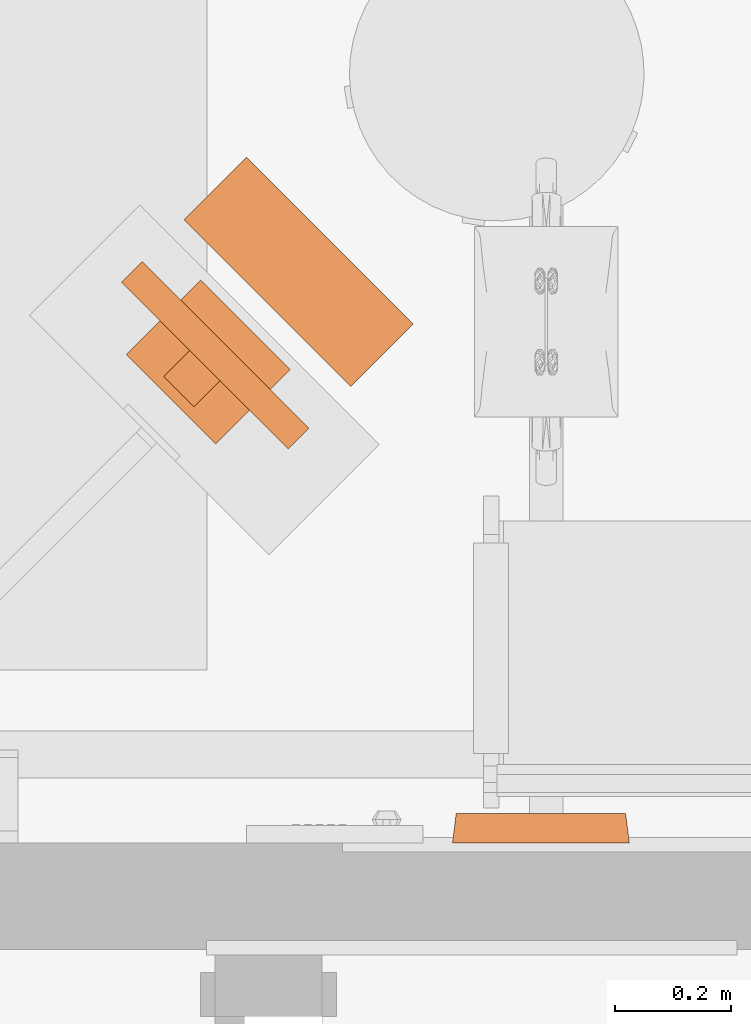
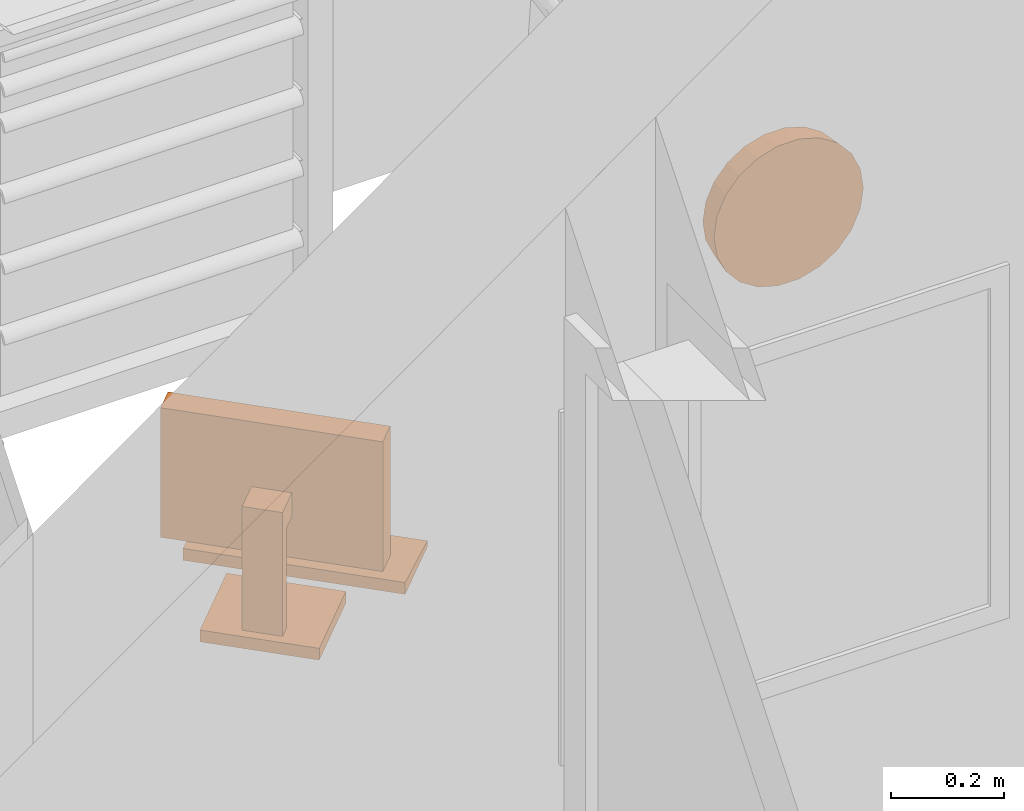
# One storey, part 110 of 142: 2 proxies.
"""IFC2X3 building model written with IfcOpenShell, lengths in feet."""

from ifc_helpers import new_model, entity, si_unit, converted_unit, derived_unit, direction, frame, origin, place, context, subcontext, project, spatial, faceted_brep, source, transform, mapped, type_object, type_shapes, element, save


model = new_model("IFC2X3")

# Units and contexts
model_context = context("Model", 3, precision=0.0001, world=origin(), true_north=direction((6.12303176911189e-17, 1.0)))
body_context = subcontext(model_context, "Body", "Model", "MODEL_VIEW")
ifc_project = project(units=[converted_unit("LENGTHUNIT", "FOOT", entity("IfcRatioMeasure", 0.3048), si_unit("LENGTHUNIT", "METRE"), dimensions=[1, 0, 0, 0, 0, 0, 0]), converted_unit("AREAUNIT", "SQUARE FOOT", entity("IfcRatioMeasure", 0.09290304), si_unit("AREAUNIT", "SQUARE_METRE"), dimensions=[2, 0, 0, 0, 0, 0, 0]), converted_unit("VOLUMEUNIT", "CUBIC FOOT", entity("IfcRatioMeasure", 0.028316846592), si_unit("VOLUMEUNIT", "CUBIC_METRE"), dimensions=[3, 0, 0, 0, 0, 0, 0]), converted_unit("PLANEANGLEUNIT", "DEGREE", entity("IfcRatioMeasure", 0.0174532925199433), si_unit("PLANEANGLEUNIT", "RADIAN"), dimensions=[0, 0, 0, 0, 0, 0, 0]), si_unit("MASSUNIT", "GRAM", prefix="KILO"), derived_unit("MASSDENSITYUNIT", [(si_unit("MASSUNIT", "GRAM", prefix="KILO"), 1), (si_unit("LENGTHUNIT", "METRE"), -3)]), si_unit("TIMEUNIT", "SECOND"), si_unit("FREQUENCYUNIT", "HERTZ"), si_unit("THERMODYNAMICTEMPERATUREUNIT", "DEGREE_CELSIUS"), derived_unit("THERMALTRANSMITTANCEUNIT", [(si_unit("MASSUNIT", "GRAM", prefix="KILO"), 1), (si_unit("THERMODYNAMICTEMPERATUREUNIT", "KELVIN"), -1), (si_unit("TIMEUNIT", "SECOND"), -3)]), derived_unit("VOLUMETRICFLOWRATEUNIT", [(si_unit("LENGTHUNIT", "METRE"), 3), (si_unit("TIMEUNIT", "SECOND"), -1)]), si_unit("ELECTRICCURRENTUNIT", "AMPERE"), si_unit("ELECTRICVOLTAGEUNIT", "VOLT"), si_unit("POWERUNIT", "WATT"), si_unit("FORCEUNIT", "NEWTON"), si_unit("ILLUMINANCEUNIT", "LUX"), si_unit("LUMINOUSFLUXUNIT", "LUMEN"), si_unit("LUMINOUSINTENSITYUNIT", "CANDELA"), derived_unit("USERDEFINED", [(si_unit("MASSUNIT", "GRAM", prefix="KILO"), -1), (si_unit("LENGTHUNIT", "METRE"), -2), (si_unit("TIMEUNIT", "SECOND"), 3), (si_unit("LUMINOUSFLUXUNIT", "LUMEN"), 1)]), derived_unit("LINEARVELOCITYUNIT", [(si_unit("LENGTHUNIT", "METRE"), 1), (si_unit("TIMEUNIT", "SECOND"), -1)]), si_unit("PRESSUREUNIT", "PASCAL"), derived_unit("USERDEFINED", [(si_unit("LENGTHUNIT", "METRE"), -2), (si_unit("MASSUNIT", "GRAM", prefix="KILO"), 1), (si_unit("TIMEUNIT", "SECOND"), -2)])], contexts=[model_context])

# Site, building, storey, space
site_placement = place(None, origin())
site = spatial("IfcSite", under=ifc_project, at=site_placement, Name="Default", CompositionType="ELEMENT")
building_placement = place(site_placement, origin())
building = spatial("IfcBuilding", under=site, at=building_placement, Name="OUTPATIENT / PACT CLINIC (Ch. 265)", CompositionType="ELEMENT")
storey_placement = place(building_placement, origin())
storey = spatial("IfcBuildingStorey", under=building, at=storey_placement, Name="LEVEL 1", CompositionType="ELEMENT", Elevation=0.0)
space_placement = place(storey_placement, origin())
space = spatial("IfcSpace", under=storey, at=space_placement, Name="EXPA1", CompositionType="ELEMENT", InteriorOrExteriorSpace="INTERNAL")

# Proxies
building_element_proxy_type_1 = type_object("IfcBuildingElementProxyType", Name="M1801 - Computer with Flat Panel Monitor", PredefinedType="NOTDEFINED")
shared_shape_1 = source(origin(), body_context, "Body", "Brep", [
    faceted_brep([(0.666666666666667, -0.5625, 0.0), (0.666666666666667, -0.0624999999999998, 0.0), (0.666666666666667, -0.0624999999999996, 0.0833333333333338), (0.666666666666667, -0.5625, 0.0416666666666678), (-0.666666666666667, -0.5625, 0.0), (-0.666666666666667, -0.5625, 0.0416666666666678), (-0.666666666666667, -0.0624999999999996, 0.0833333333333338), (-0.666666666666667, -0.0624999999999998, 0.0)], [[[0, 1, 2, 3]], [[4, 5, 6, 7]], [[1, 0, 4, 7]], [[2, 1, 7, 6]], [[3, 2, 6, 5]], [[0, 3, 5, 4]]]),
    faceted_brep([(0.666666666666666, 0.437223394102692, 1.41666666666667), (-0.666666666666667, 0.437223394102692, 1.41666666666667), (-0.666666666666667, 0.271109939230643, 1.41666666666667), (0.666666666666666, 0.271109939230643, 1.41666666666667), (0.666666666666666, 0.437223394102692, 0.500000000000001), (0.666666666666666, 0.271109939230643, 0.500000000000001), (-0.666666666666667, 0.271109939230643, 0.500000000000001), (-0.666666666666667, 0.437223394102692, 0.500000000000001), (-0.625, 0.271109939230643, 1.375), (0.625, 0.271109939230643, 1.375), (0.625, 0.271109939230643, 0.541666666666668), (-0.625, 0.271109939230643, 0.541666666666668), (0.625, 0.286812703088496, 1.375), (-0.625, 0.286812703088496, 1.375), (0.625, 0.286812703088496, 0.541666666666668), (-0.625, 0.286812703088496, 0.541666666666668)], [[[0, 1, 2, 3]], [[4, 5, 6, 7]], [[1, 0, 4, 7]], [[2, 1, 7, 6]], [[3, 2, 6, 5], [8, 9, 10, 11]], [[0, 3, 5, 4]], [[12, 9, 8, 13]], [[14, 15, 11, 10]], [[12, 13, 15, 14]], [[13, 8, 11, 15]], [[9, 12, 14, 10]]]),
    faceted_brep([(0.358011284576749, 0.111770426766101, 0.0833333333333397), (0.358011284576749, 0.111770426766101, 0.0), (0.358011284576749, 0.708333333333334, 0.0), (0.358011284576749, 0.708333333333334, 0.0833333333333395), (-0.358011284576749, 0.708333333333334, 0.0833333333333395), (-0.358011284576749, 0.708333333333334, 0.0), (-0.358011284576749, 0.111770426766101, 0.0), (-0.358011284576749, 0.111770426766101, 0.0833333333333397), (0.12128795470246, 0.645556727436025, 0.104166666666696), (0.12128795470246, 0.645556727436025, 0.0833333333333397), (-0.12128795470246, 0.645556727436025, 0.0833333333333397), (-0.12128795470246, 0.645556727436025, 0.104166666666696), (0.12128795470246, 0.645556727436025, 0.958333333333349), (-0.12128795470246, 0.645556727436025, 0.958333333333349), (0.12128795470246, 0.437223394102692, 0.958333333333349), (-0.12128795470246, 0.437223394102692, 0.958333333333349), (0.12128795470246, 0.437223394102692, 0.791666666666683), (-0.12128795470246, 0.437223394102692, 0.791666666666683), (0.12128795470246, 0.562223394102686, 0.791666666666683), (-0.12128795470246, 0.562223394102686, 0.791666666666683), (0.12128795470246, 0.562223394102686, 0.0833333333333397), (-0.12128795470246, 0.562223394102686, 0.0833333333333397)], [[[0, 1, 2, 3]], [[4, 5, 6, 7]], [[8, 9, 10, 11]], [[12, 8, 11, 13]], [[14, 12, 13, 15]], [[16, 14, 15, 17]], [[18, 16, 17, 19]], [[20, 18, 19, 21]], [[0, 3, 4, 7], [9, 20, 21, 10]], [[1, 0, 7, 6]], [[2, 1, 6, 5]], [[3, 2, 5, 4]], [[20, 9, 8, 12, 14, 16, 18]], [[10, 21, 19, 17, 15, 13, 11]]]),
])
type_shapes(building_element_proxy_type_1, [shared_shape_1])
proxy_1_placement = place(space_placement, frame((439.803720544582, -900.619691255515, 2.9791666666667), z_axis=(0.0, 0.0, 1.0), x_axis=(-0.707106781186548, 0.707106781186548, 0.0)))
element("IfcBuildingElementProxy", 1, at=proxy_1_placement, inside=space, type_object=building_element_proxy_type_1, Name="M1801 - Computer with Flat Panel Monitor1:M1801 - Computer with Flat Panel Monitor", ObjectType="M1801 - Computer with Flat Panel Monitor", context=body_context, shape_type="MappedRepresentation", body=[
    mapped(shared_shape_1, transform((0.0, 0.0, 0.0), scale=1.0)),
])
building_element_proxy_type_2 = type_object("IfcBuildingElementProxyType", Name="F3200 - Clock, Battery, 12in Dia", PredefinedType="NOTDEFINED")
shared_shape_2 = source(origin(), body_context, "Body", "Brep", [
    faceted_brep([(0.0527623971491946, -0.166666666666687, -0.0087350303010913), (0.143371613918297, -0.166666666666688, 0.0607918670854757), (0.212898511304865, -0.16666666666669, 0.151401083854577), (0.256604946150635, -0.166666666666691, 0.256917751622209), (0.271512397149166, -0.166666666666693, 0.370151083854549), (0.256604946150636, -0.166666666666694, 0.483384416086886), (0.212898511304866, -0.166666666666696, 0.588901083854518), (0.143371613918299, -0.166666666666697, 0.67951030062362), (0.052762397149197, -0.166666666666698, 0.749037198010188), (-0.0527542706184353, -0.166666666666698, 0.792743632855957), (-0.165987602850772, -0.166666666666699, 0.807651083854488), (-0.279220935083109, -0.166666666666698, 0.792743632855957), (-0.384737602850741, -0.166666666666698, 0.749037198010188), (-0.475346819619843, -0.166666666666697, 0.679510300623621), (-0.544873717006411, -0.166666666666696, 0.588901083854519), (-0.588580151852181, -0.166666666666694, 0.483384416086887), (-0.603487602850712, -0.166666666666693, 0.37015108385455), (-0.588580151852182, -0.166666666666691, 0.256917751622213), (-0.544873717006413, -0.16666666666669, 0.151401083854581), (-0.475346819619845, -0.166666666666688, 0.0607918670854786), (-0.384737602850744, -0.166666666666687, -0.0087350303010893), (-0.279220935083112, -0.166666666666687, -0.052441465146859), (-0.165987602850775, -0.166666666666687, -0.0673489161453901), (-0.0527542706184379, -0.166666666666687, -0.0524414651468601), (0.256604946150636, -0.145833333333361, 0.483384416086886), (0.271512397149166, -0.145833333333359, 0.370151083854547), (0.256604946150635, -0.145833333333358, 0.256917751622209), (0.212898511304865, -0.145833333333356, 0.151401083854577), (0.143371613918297, -0.145833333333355, 0.0607918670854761), (0.0527623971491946, -0.145833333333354, -0.00873503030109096), (-0.0527542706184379, -0.145833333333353, -0.0524414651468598), (-0.165987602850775, -0.145833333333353, -0.0673489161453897), (-0.279220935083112, -0.145833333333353, -0.0524414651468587), (-0.384737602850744, -0.145833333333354, -0.00873503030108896), (-0.475346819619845, -0.145833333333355, 0.060791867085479), (-0.544873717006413, -0.145833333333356, 0.151401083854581), (-0.588580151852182, -0.145833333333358, 0.256917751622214), (-0.603487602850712, -0.145833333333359, 0.37015108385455), (-0.588580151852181, -0.145833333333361, 0.483384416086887), (-0.544873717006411, -0.145833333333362, 0.588901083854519), (-0.475346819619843, -0.145833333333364, 0.679510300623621), (-0.384737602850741, -0.145833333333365, 0.749037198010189), (-0.279220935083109, -0.145833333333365, 0.792743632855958), (-0.165987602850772, -0.145833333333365, 0.807651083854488), (-0.0527542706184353, -0.145833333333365, 0.792743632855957), (0.052762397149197, -0.145833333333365, 0.749037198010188), (0.143371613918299, -0.145833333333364, 0.67951030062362), (0.212898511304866, -0.145833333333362, 0.588901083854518)], [[[0, 1, 2, 3, 4, 5, 6, 7, 8, 9, 10, 11, 12, 13, 14, 15, 16, 17, 18, 19, 20, 21, 22, 23]], [[24, 25, 26, 27, 28, 29, 30, 31, 32, 33, 34, 35, 36, 37, 38, 39, 40, 41, 42, 43, 44, 45, 46, 47]], [[36, 17, 16, 37]], [[35, 18, 17, 36]], [[20, 19, 34, 33]], [[35, 34, 19, 18]], [[21, 20, 33, 32]], [[22, 21, 32, 31]], [[30, 23, 22, 31]], [[29, 0, 23, 30]], [[2, 1, 28, 27]], [[29, 28, 1, 0]], [[3, 2, 27, 26]], [[4, 3, 26, 25]], [[24, 5, 4, 25]], [[47, 6, 5, 24]], [[8, 7, 46, 45]], [[47, 46, 7, 6]], [[9, 8, 45, 44]], [[10, 9, 44, 43]], [[11, 10, 43, 42]], [[12, 11, 42, 41]], [[14, 39, 38, 15]], [[15, 38, 37, 16]], [[12, 41, 40, 13]], [[40, 39, 14, 13]]]),
    faceted_brep([(-0.493417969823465, 0.0, -0.00772370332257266), (-0.586614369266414, 0.0, 0.0998306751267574), (-0.165987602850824, 0.0, 0.370151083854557), (-0.373695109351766, 0.0, -0.0846649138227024), (-0.645734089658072, 0.0, 0.229284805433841), (-0.665987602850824, 0.0, 0.370151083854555), (-0.645734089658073, 0.0, 0.51101736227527), (-0.586614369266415, 0.0, 0.640471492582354), (-0.493417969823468, 0.0, 0.748025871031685), (-0.373695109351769, 0.0, 0.824967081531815), (-0.237145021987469, 0.0, 0.865061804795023), (-0.0948301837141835, 0.0, 0.865061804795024), (0.0417199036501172, 0.0, 0.824967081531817), (0.161442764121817, 0.0, 0.748025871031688), (0.254639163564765, 0.0, 0.640471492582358), (0.313758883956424, 0.0, 0.511017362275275), (0.334012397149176, 0.0, 0.370151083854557), (0.313758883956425, 0.0, 0.229284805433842), (0.254639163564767, 0.0, 0.0998306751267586), (0.161442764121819, 0.0, -0.00772370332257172), (0.0417199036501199, 0.0, -0.0846649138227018), (-0.0948301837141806, 0.0, -0.124759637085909), (-0.237145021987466, 0.0, -0.124759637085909), (-0.165987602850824, -0.145833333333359, 0.370151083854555), (-0.534036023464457, -0.145833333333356, 0.133620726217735), (-0.452489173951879, -0.145833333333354, 0.0395106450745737), (-0.585765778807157, -0.145833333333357, 0.246893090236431), (-0.347731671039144, -0.145833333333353, -0.0278129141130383), (-0.228250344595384, -0.145833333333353, -0.0628957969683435), (-0.603487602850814, -0.145833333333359, 0.370151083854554), (-0.103724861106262, -0.145833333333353, -0.0628957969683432), (0.0157564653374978, -0.145833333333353, -0.0278129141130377), (0.120513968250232, -0.145833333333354, 0.0395106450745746), (0.20206081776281, -0.145833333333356, 0.133620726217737), (0.253790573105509, -0.145833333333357, 0.246893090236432), (0.271512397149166, -0.145833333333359, 0.370151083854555), (-0.585765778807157, -0.145833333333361, 0.493409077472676), (-0.534036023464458, -0.145833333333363, 0.606681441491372), (-0.452489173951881, -0.145833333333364, 0.700791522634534), (-0.347731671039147, -0.145833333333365, 0.768115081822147), (-0.228250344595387, -0.145833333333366, 0.803197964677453), (0.253790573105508, -0.145833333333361, 0.49340907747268), (0.202060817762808, -0.145833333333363, 0.606681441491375), (0.12051396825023, -0.145833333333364, 0.700791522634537), (0.0157564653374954, -0.145833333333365, 0.768115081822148), (-0.103724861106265, -0.145833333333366, 0.803197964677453), (0.253790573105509, -0.166666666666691, 0.246893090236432), (0.271512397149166, -0.166666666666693, 0.370151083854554), (0.20206081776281, -0.166666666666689, 0.133620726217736), (-0.103724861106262, -0.166666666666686, -0.0628957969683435), (0.0157564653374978, -0.166666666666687, -0.0278129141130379), (0.120513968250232, -0.166666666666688, 0.0395106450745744), (-0.228250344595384, -0.166666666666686, -0.0628957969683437), (-0.452489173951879, -0.166666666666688, 0.0395106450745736), (-0.347731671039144, -0.166666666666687, -0.0278129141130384), (-0.603487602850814, -0.166666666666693, 0.370151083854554), (-0.585765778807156, -0.166666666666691, 0.246893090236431), (-0.534036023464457, -0.166666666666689, 0.133620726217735), (-0.585765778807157, -0.166666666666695, 0.493409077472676), (-0.534036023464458, -0.166666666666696, 0.606681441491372), (-0.347731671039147, -0.166666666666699, 0.768115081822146), (-0.452489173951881, -0.166666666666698, 0.700791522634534), (-0.228250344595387, -0.166666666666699, 0.803197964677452), (-0.103724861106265, -0.166666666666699, 0.803197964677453), (0.0157564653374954, -0.166666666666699, 0.768115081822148), (0.12051396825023, -0.166666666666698, 0.700791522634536), (0.253790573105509, -0.166666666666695, 0.493409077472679), (0.202060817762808, -0.166666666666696, 0.606681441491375), (-0.62574465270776, -0.166666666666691, 0.235154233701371), (-0.64515426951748, -0.166666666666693, 0.370151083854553), (-0.569088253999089, -0.166666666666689, 0.111094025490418), (-0.479775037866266, -0.166666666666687, 0.00802107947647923), (-0.365040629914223, -0.166666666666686, -0.0657142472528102), (-0.234180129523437, -0.166666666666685, -0.104138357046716), (-0.0977950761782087, -0.166666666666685, -0.104138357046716), (0.0330654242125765, -0.166666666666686, -0.0657142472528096), (0.147799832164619, -0.166666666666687, 0.00802107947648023), (0.237113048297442, -0.166666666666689, 0.11109402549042), (0.293769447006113, -0.166666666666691, 0.235154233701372), (0.313179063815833, -0.166666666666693, 0.370151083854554), (0.293769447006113, -0.166666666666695, 0.50514793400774), (0.237113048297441, -0.166666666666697, 0.629208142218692), (0.147799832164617, -0.166666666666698, 0.732281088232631), (0.0330654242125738, -0.1666666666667, 0.80601641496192), (-0.0977950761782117, -0.1666666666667, 0.844440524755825), (-0.23418012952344, -0.1666666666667, 0.844440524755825), (-0.365040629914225, -0.1666666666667, 0.806016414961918), (-0.479775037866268, -0.166666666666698, 0.732281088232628), (-0.569088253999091, -0.166666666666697, 0.629208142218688), (-0.625744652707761, -0.166666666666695, 0.505147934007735)], [[[0, 1, 2]], [[0, 2, 3]], [[4, 2, 1]], [[2, 4, 5]], [[5, 6, 2]], [[2, 6, 7]], [[2, 7, 8]], [[2, 8, 9]], [[9, 10, 2]], [[11, 2, 10]], [[2, 11, 12]], [[2, 12, 13]], [[14, 2, 13]], [[2, 14, 15]], [[15, 16, 2]], [[2, 16, 17]], [[2, 17, 18]], [[18, 19, 2]], [[19, 20, 2]], [[21, 2, 20]], [[2, 21, 22]], [[22, 3, 2]], [[23, 24, 25]], [[24, 23, 26]], [[27, 23, 25]], [[23, 27, 28]], [[29, 26, 23]], [[28, 30, 23]], [[31, 23, 30]], [[23, 31, 32]], [[23, 32, 33]], [[33, 34, 23]], [[34, 35, 23]], [[23, 36, 29]], [[37, 36, 23]], [[38, 37, 23]], [[39, 38, 23]], [[23, 40, 39]], [[23, 35, 41]], [[41, 42, 23]], [[43, 23, 42]], [[43, 44, 23]], [[44, 45, 23]], [[40, 23, 45]], [[46, 47, 35, 34]], [[46, 34, 33, 48]], [[31, 30, 49, 50]], [[32, 31, 50, 51]], [[51, 48, 33, 32]], [[30, 28, 52, 49]], [[27, 25, 53, 54]], [[28, 27, 54, 52]], [[29, 55, 56, 26]], [[26, 56, 57, 24]], [[24, 57, 53, 25]], [[55, 29, 36, 58]], [[58, 36, 37, 59]], [[60, 61, 38, 39]], [[59, 37, 38, 61]], [[39, 40, 62, 60]], [[40, 45, 63, 62]], [[64, 63, 45, 44]], [[64, 44, 43, 65]], [[41, 35, 47, 66]], [[42, 41, 66, 67]], [[67, 65, 43, 42]], [[68, 55, 69]], [[56, 55, 68]], [[68, 70, 56]], [[70, 57, 56]], [[71, 57, 70]], [[57, 71, 53]], [[72, 53, 71]], [[54, 53, 72]], [[72, 73, 54]], [[73, 52, 54]], [[49, 52, 73]], [[73, 74, 49]], [[74, 50, 49]], [[75, 50, 74]], [[50, 75, 51]], [[76, 51, 75]], [[48, 51, 76]], [[76, 77, 48]], [[77, 46, 48]], [[78, 46, 77]], [[46, 78, 47]], [[78, 79, 47]], [[79, 80, 47]], [[66, 47, 80]], [[80, 81, 66]], [[66, 81, 67]], [[82, 67, 81]], [[67, 82, 65]], [[65, 82, 83]], [[64, 65, 83]], [[83, 84, 64]], [[64, 84, 63]], [[85, 63, 84]], [[63, 85, 62]], [[62, 85, 60]], [[86, 60, 85]], [[60, 86, 61]], [[61, 86, 87]], [[59, 61, 87]], [[87, 88, 59]], [[59, 88, 58]], [[89, 58, 88]], [[55, 89, 69]], [[58, 89, 55]], [[78, 17, 16, 79]], [[77, 18, 17, 78]], [[19, 76, 75, 20]], [[77, 76, 19, 18]], [[20, 75, 74, 21]], [[74, 73, 22, 21]], [[22, 73, 72, 3]], [[0, 3, 72, 71]], [[4, 1, 70, 68]], [[70, 1, 0, 71]], [[5, 4, 68, 69]], [[89, 6, 5, 69]], [[88, 7, 6, 89]], [[8, 87, 86, 9]], [[88, 87, 8, 7]], [[9, 86, 85, 10]], [[85, 84, 11, 10]], [[83, 12, 11, 84]], [[82, 13, 12, 83]], [[14, 81, 80, 15]], [[82, 81, 14, 13]], [[15, 80, 79, 16]]]),
])
type_shapes(building_element_proxy_type_2, [shared_shape_2])
proxy_2_placement = place(space_placement, frame((441.228934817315, -903.628851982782, 6.50000000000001), z_axis=(0.0, 0.0, 1.0), x_axis=(-1.0, 0.0, 0.0)))
element("IfcBuildingElementProxy", 2, at=proxy_2_placement, inside=space, type_object=building_element_proxy_type_2, Name="F3200 - Clock, Battery, 12in Dia:F3200 - Clock, Battery, 12in Dia", ObjectType="F3200 - Clock, Battery, 12in Dia", context=body_context, shape_type="MappedRepresentation", body=[
    mapped(shared_shape_2, transform((0.0, 0.0, 0.0), scale=1.0)),
])

save(model, "model.ifc")
